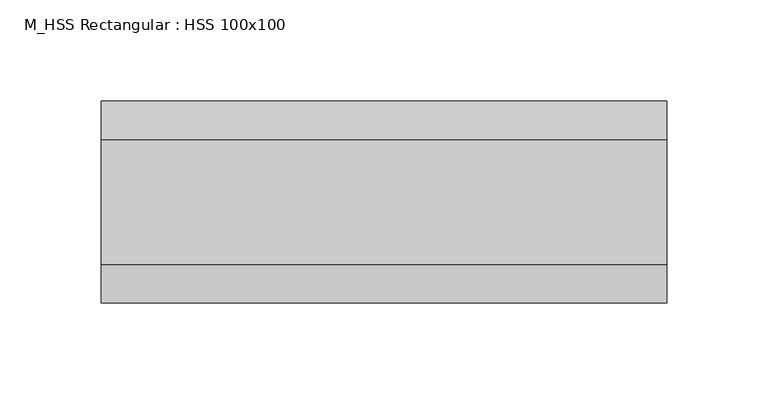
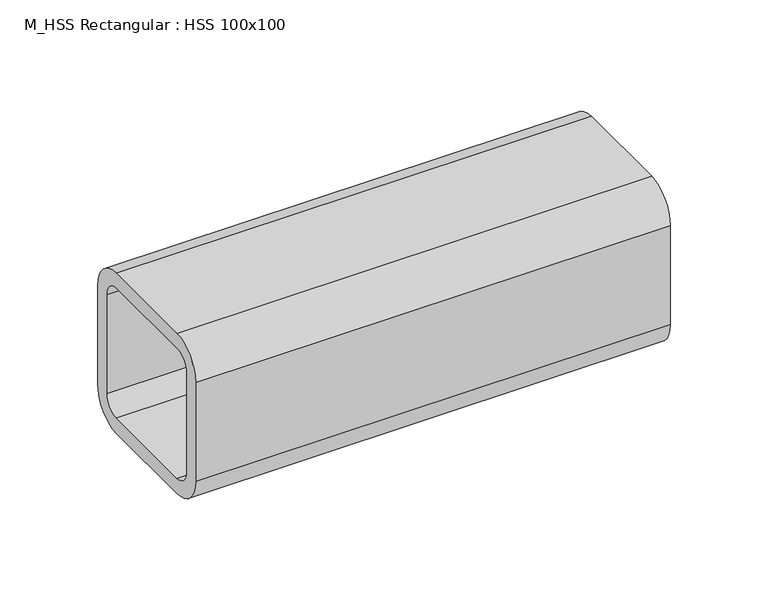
"""IFC4 building model written with IfcOpenShell, lengths in millimetres: beam geometry, M_HSS Rectangular : HSS 100x100."""

from ifc_helpers import new_model, si_unit, point, frame, frame_2d, origin, place, context, project, spatial, polyline, circle_curve, trimmed, segment, composite_curve, outline, extrude, source, transform, mapped, element, save


def m_hss_rectangular_hss_100x100_e4ef8ecd(model_context):
    return source(origin(), model_context, "Body", "SweptSolid", [
        extrude(outline(composite_curve([segment(polyline([(50.0, 30.94), (50.0, -30.94)]), True, "CONTINUOUS"), segment(trimmed(circle_curve(frame_2d((30.94, -30.94)), 19.06), [point((50.0, -30.94))], [point((30.94, -50.0))], False, "CARTESIAN"), True, "CONTINUOUS"), segment(polyline([(30.94, -50.0), (-30.94, -50.0)]), True, "CONTINUOUS"), segment(trimmed(circle_curve(frame_2d((-30.94, -30.94)), 19.06), [point((-30.94, -50.0))], [point((-50.0, -30.94))], False, "CARTESIAN"), True, "CONTINUOUS"), segment(polyline([(-50.0, -30.94), (-50.0, 30.94)]), True, "CONTINUOUS"), segment(trimmed(circle_curve(frame_2d((-30.94, 30.94)), 19.06), [point((-50.0, 30.94))], [point((-30.94, 50.0))], False, "CARTESIAN"), True, "CONTINUOUS"), segment(polyline([(-30.94, 50.0), (30.94, 50.0)]), True, "CONTINUOUS"), segment(trimmed(circle_curve(frame_2d((30.94, 30.94)), 19.06), [point((30.94, 50.0))], [point((50.0, 30.94))], False, "CARTESIAN"), True, "CONTINUOUS")], self_intersect=False), holes=[composite_curve([segment(trimmed(circle_curve(frame_2d((-30.94, 30.94)), 9.53), [point((-30.94, 40.47))], [point((-40.47, 30.94))], True, "CARTESIAN"), True, "CONTINUOUS"), segment(polyline([(-40.47, 30.94), (-40.47, -30.94)]), True, "CONTINUOUS"), segment(trimmed(circle_curve(frame_2d((-30.94, -30.94)), 9.53), [point((-40.47, -30.94))], [point((-30.94, -40.47))], True, "CARTESIAN"), True, "CONTINUOUS"), segment(polyline([(-30.94, -40.47), (30.94, -40.47)]), True, "CONTINUOUS"), segment(trimmed(circle_curve(frame_2d((30.94, -30.94)), 9.53), [point((30.94, -40.47))], [point((40.47, -30.94))], True, "CARTESIAN"), True, "CONTINUOUS"), segment(polyline([(40.47, -30.94), (40.47, 30.94)]), True, "CONTINUOUS"), segment(trimmed(circle_curve(frame_2d((30.94, 30.94)), 9.53), [point((40.47, 30.94))], [point((30.94, 40.47))], True, "CARTESIAN"), True, "CONTINUOUS"), segment(polyline([(30.94, 40.47), (-30.94, 40.47)]), True, "CONTINUOUS")], self_intersect=False)]), frame((-140.05, 0.0, 0.0), z_axis=(1.0, 0.0, 0.0), x_axis=(0.0, 1.0, 0.0)), (0.0, 0.0, 1.0), 280.1),
    ])


if __name__ == "__main__":
    model = new_model("IFC4")
    model_context = context("Model", 3, world=origin())
    ifc_project = project(units=[si_unit("LENGTHUNIT", "METRE", prefix="MILLI")], contexts=[model_context])
    site = spatial("IfcSite", under=ifc_project)
    building = spatial("IfcBuilding", under=site)
    placement = place(None, origin())
    m_hss_rectangular_hss_100x100_shape = m_hss_rectangular_hss_100x100_e4ef8ecd(model_context)
    element("IfcBeam", 1, ObjectType="M_HSS Rectangular : HSS 100x100", at=placement, inside=building, context=model_context, shape_type="MappedRepresentation", body=[
        mapped(m_hss_rectangular_hss_100x100_shape, transform((0.0, 0.0, 0.0), x_axis=(1.0, 0.0, 0.0), y_axis=(0.0, 1.0, 0.0), z_axis=(0.0, 0.0, 1.0))),
    ])
    save(model, "model.ifc")
